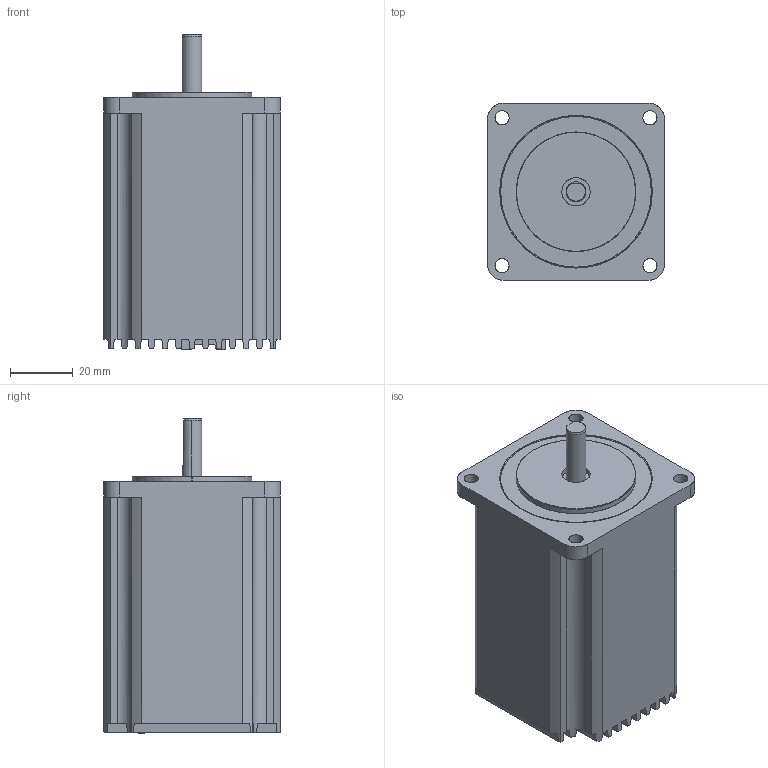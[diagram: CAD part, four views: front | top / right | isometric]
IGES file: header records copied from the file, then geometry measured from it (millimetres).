
Start section: SolidWorks IGES file using analytic representation for surfaces
Global section: file name: C:\Users\7666\Desktop\SSA-TR-56D3\SSA-TR-56D3\SSA-PRPE-56D3ŠOŠÏ.IGS; native system: SolidWorks 2010; preprocessor: SolidWorks 2010; author: 7666; date: 140121.074040; units: millimetre
Bounding box: 56.4 x 56.4 x 100.3 mm (x, y, z)
Surface area: 28038.3 mm2 (no closed solid volume)
Topology: 0 solids, 0 shells, 547 faces, 3694 edges, 3694 vertices
Faces by surface type: bspline 468, revolution 79
